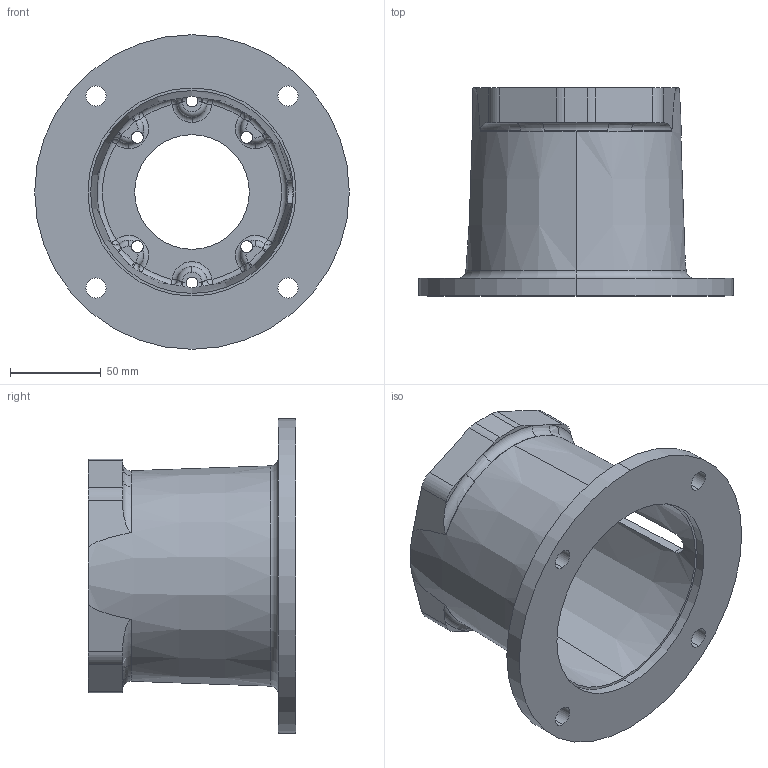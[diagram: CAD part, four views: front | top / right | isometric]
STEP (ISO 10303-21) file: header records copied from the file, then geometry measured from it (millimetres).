
FILE_DESCRIPTION (( 'STEP AP203' ), '1' );
FILE_NAME ('M0564563M.STEP', '2016-03-18T15:10:55', ( 'engineering4' ), ( '' ), 'SwSTEP 2.0', 'SolidWorks 2015', '' );
FILE_SCHEMA (( 'CONFIG_CONTROL_DESIGN' ));
Length unit declared in the file: millimetre
Products named in the file (1): M0564563M
Bounding box: 172.97 x 114.3 x 172.97 mm (x, y, z)
Volume: 383184.6 mm3; surface area: 123315 mm2
Topology: 1 solids, 1 shells, 222 faces, 586 edges, 351 vertices
Faces by surface type: torus 65, cylinder 48, bspline 40, plane 31, sphere 24, cone 14
Entity records: 9015 total; most frequent: CARTESIAN_POINT 3624, DIRECTION 1152, ORIENTED_EDGE 1148, EDGE_CURVE 574, AXIS2_PLACEMENT_3D 531, VERTEX_POINT 351, CIRCLE 348, EDGE_LOOP 243
